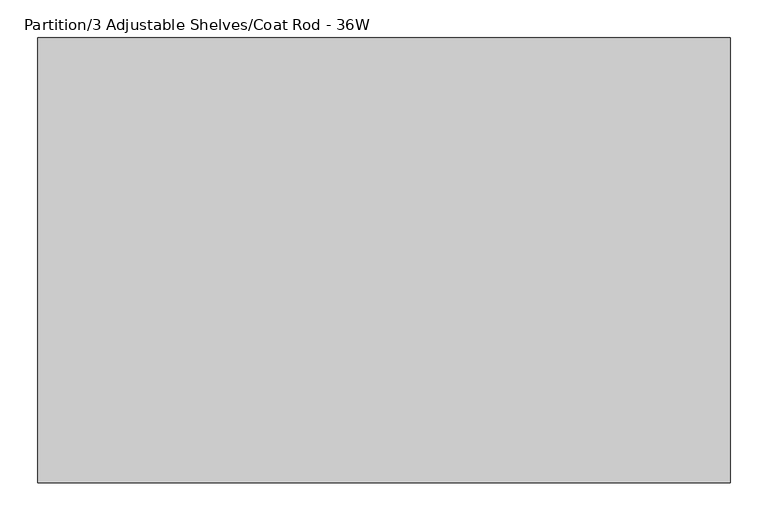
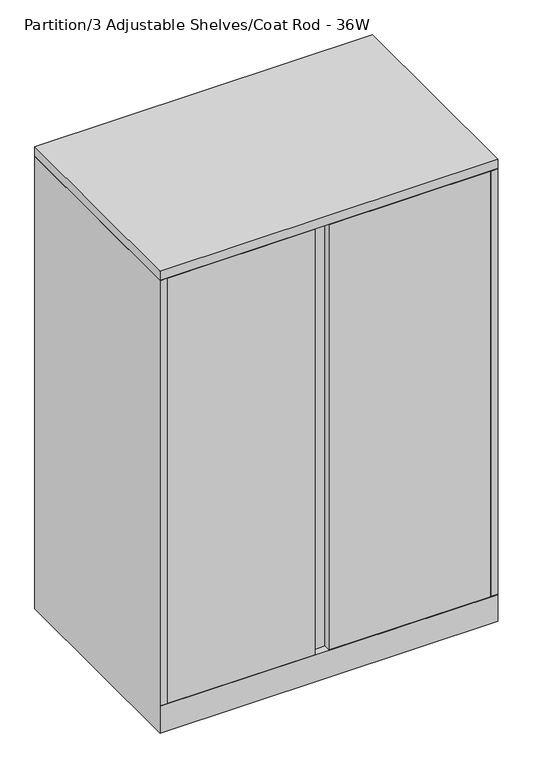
"""IFC4 building model written with IfcOpenShell, lengths in millimetres: furniture geometry, Steelcase - Universal Storage - Cabinet - Wardrobe - 52H - Flush Steel : Partition/3 Adjustable Shelves/Coat Rod - 36W."""

from ifc_helpers import new_model, si_unit, frame, origin, place, context, project, spatial, polyline, outline, extrude, faceted_brep, source, transform, mapped, element, save


def partition_3_adjustable_shelves_coat_rod_36w_abcfcea8(model_context):
    return source(origin(), model_context, "Body", "SolidModel", [
        extrude(outline(polyline([(914.4, 0.0), (914.4, -587.502), (0.0, -587.502), (0.0, 0.0), (914.4, 0.0)])), frame((0.0, 0.0, 1295.3999516), z_axis=(0.0, 0.0, 1.0), x_axis=(1.0, 0.0, 0.0)), (0.0, 0.0, 1.0), 25.4),
        extrude(outline(polyline([(20.8280006, -561.975866), (893.572, -561.975866), (893.572, -587.502), (457.2, -587.502), (457.2, -568.3258781), (419.1, -568.3258781), (419.1, -587.502), (20.8280006, -587.502), (20.8280006, -561.975866)])), frame((0.0, 0.0, 77.724), z_axis=(0.0, 0.0, 1.0), x_axis=(1.0, 0.0, 0.0)), (0.0, 0.0, 1.0), 1216.152),
        faceted_brep([(914.4, 0.0, 0.0), (914.4, -587.502, 0.0), (0.0, -587.502, 0.0), (0.0, 0.0, 0.0), (0.0, 0.0, 1293.876), (914.4, 0.0, 1293.876), (0.0, -587.502, 76.2), (0.0, -587.502, 77.724), (0.0, -587.502, 1293.876), (914.4, -587.502, 76.2), (914.4, -587.502, 1293.876), (914.4, -587.502, 77.724), (889.0000242, -25.4000008, 1293.876), (889.0000242, -560.4518674, 1293.876), (893.572, -560.4518674, 1293.876), (893.572, -561.9758781, 1293.876), (895.096, -561.9758781, 1293.876), (895.096, -587.502, 1293.876), (19.304, -587.502, 1293.876), (19.304, -561.975866, 1293.876), (20.8280006, -561.975866, 1293.876), (20.8280006, -560.4518674, 1293.876), (25.4000008, -560.4518674, 1293.876), (25.4000008, -25.4000008, 1293.876), (19.304, -587.502, 77.724), (19.304, -568.198, 77.724), (895.096, -587.502, 77.724), (895.096, -568.0718418, 77.724), (889.0000242, -25.4000008, 77.724), (889.0000242, -560.4518674, 77.724), (893.572, -560.4518674, 77.724), (893.572, -561.9758781, 77.724), (895.096, -561.9758781, 77.724), (19.304, -561.975866, 77.724), (20.8280006, -561.975866, 77.724), (20.8280006, -560.4518674, 77.724), (25.4000008, -560.4518674, 77.724), (25.4000008, -25.4000008, 77.724), (25.526134, -561.975866, 77.724), (889.0000242, -561.975866, 77.724)], [[[0, 1, 2, 3]], [[0, 3, 4, 5]], [[4, 3, 2, 6, 7, 8]], [[2, 1, 9, 6]], [[1, 0, 5, 10, 11, 9]], [[12, 13, 14, 15, 16, 17, 10, 5, 4, 8, 18, 19, 20, 21, 22, 23]], [[24, 7, 25]], [[11, 26, 27]], [[13, 12, 28, 29]], [[14, 13, 29, 30]], [[15, 14, 30, 31]], [[16, 15, 31, 32]], [[17, 16, 32, 27, 26]], [[10, 17, 26, 11]], [[18, 8, 7, 24]], [[19, 18, 24, 25, 33]], [[20, 19, 33, 34]], [[21, 20, 34, 35]], [[22, 21, 35, 36]], [[23, 22, 36, 37]], [[12, 23, 37, 28]], [[38, 39, 27, 32, 31, 30, 29, 28, 37, 36, 35, 34, 33, 25]], [[7, 6, 38, 25]], [[39, 38, 6, 9]], [[39, 9, 11, 27]]]),
    ])


if __name__ == "__main__":
    model = new_model("IFC4")
    model_context = context("Model", 3, world=origin())
    ifc_project = project(units=[si_unit("LENGTHUNIT", "METRE", prefix="MILLI")], contexts=[model_context])
    site = spatial("IfcSite", under=ifc_project)
    building = spatial("IfcBuilding", under=site)
    placement = place(None, origin())
    partition_3_adjustable_shelves_coat_rod_36w_shape = partition_3_adjustable_shelves_coat_rod_36w_abcfcea8(model_context)
    element("IfcFurniture", 1, ObjectType="Steelcase - Universal Storage - Cabinet - Wardrobe - 52H - Flush Steel : Partition/3 Adjustable Shelves/Coat Rod - 36W", at=placement, inside=building, context=model_context, shape_type="MappedRepresentation", body=[
        mapped(partition_3_adjustable_shelves_coat_rod_36w_shape, transform((0.0, 0.0, 0.0), x_axis=(1.0, 0.0, 0.0), y_axis=(0.0, 1.0, 0.0), z_axis=(0.0, 0.0, 1.0))),
    ])
    save(model, "model.ifc")
